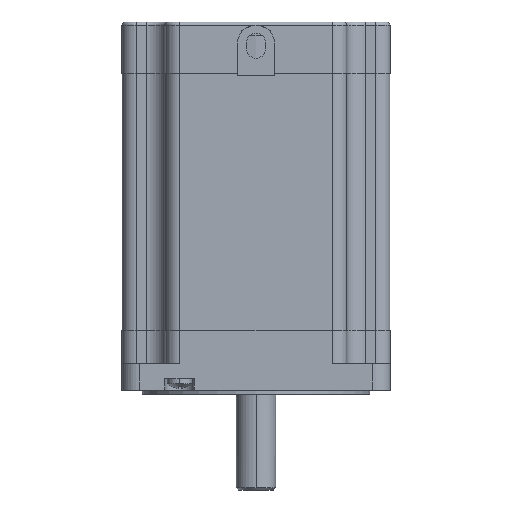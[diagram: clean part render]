
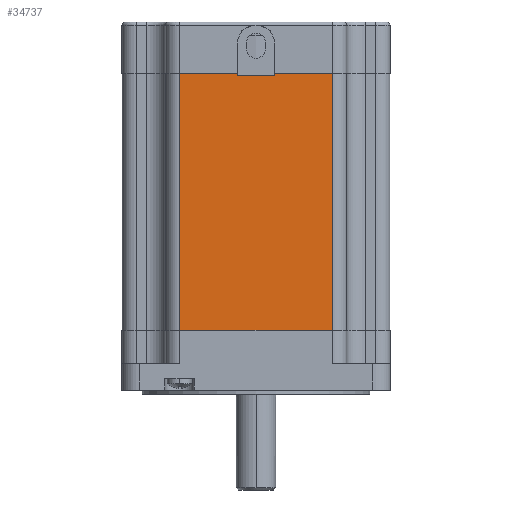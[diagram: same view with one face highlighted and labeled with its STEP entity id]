
A CAD part, left-side view. The second image highlights one B-rep face of the part: STEP entity #34737.
In plain terms, the highlighted planar face has unit normal (-1, 0, 0).
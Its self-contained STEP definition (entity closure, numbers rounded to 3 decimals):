
#650 = EDGE_CURVE ( 'NONE', #36270, #36417, #7085, .T. ) ;
#1016 = FACE_OUTER_BOUND ( 'NONE', #35691, .T. ) ;
#2045 = CARTESIAN_POINT ( 'NONE',  ( -42.87, -24.5, 82.4 ) ) ;
#3076 = VECTOR ( 'NONE', #27436, 1000. ) ;
#3633 = ORIENTED_EDGE ( 'NONE', *, *, #45431, .T. ) ;
#5054 = DIRECTION ( 'NONE',  ( 0., 0., -1. ) ) ;
#7085 = LINE ( 'NONE', #2045, #25351 ) ;
#7221 = ORIENTED_EDGE ( 'NONE', *, *, #48941, .T. ) ;
#10051 = DIRECTION ( 'NONE',  ( 1., 0., 0. ) ) ;
#11626 = EDGE_CURVE ( 'NONE', #32142, #36270, #36728, .T. ) ;
#14390 = CARTESIAN_POINT ( 'NONE',  ( -42.87, -24.5, 0. ) ) ;
#15114 = CARTESIAN_POINT ( 'NONE',  ( -42.87, -24.5, 82.4 ) ) ;
#16013 = VECTOR ( 'NONE', #26712, 1000. ) ;
#18617 = VERTEX_POINT ( 'NONE', #25234 ) ;
#20162 = PLANE ( 'NONE',  #43794 ) ;
#20354 = CARTESIAN_POINT ( 'NONE',  ( -42.87, -24.5, 82.4 ) ) ;
#25234 = CARTESIAN_POINT ( 'NONE',  ( -42.87, 24.5, 0. ) ) ;
#25351 = VECTOR ( 'NONE', #46176, 1000. ) ;
#26712 = DIRECTION ( 'NONE',  ( 0., -1., 0. ) ) ;
#27101 = VECTOR ( 'NONE', #32460, 1000. ) ;
#27436 = DIRECTION ( 'NONE',  ( 0., -1., 0. ) ) ;
#31761 = CARTESIAN_POINT ( 'NONE',  ( -42.87, -24.5, 82.4 ) ) ;
#32142 = VERTEX_POINT ( 'NONE', #43575 ) ;
#32430 = CARTESIAN_POINT ( 'NONE',  ( -42.87, -24.5, 0. ) ) ;
#32460 = DIRECTION ( 'NONE',  ( 0., 0., -1. ) ) ;
#34737 = ADVANCED_FACE ( 'NONE', ( #1016 ), #20162, .F. ) ;
#35691 = EDGE_LOOP ( 'NONE', ( #3633, #48964, #46989, #7221 ) ) ;
#36270 = VERTEX_POINT ( 'NONE', #20354 ) ;
#36417 = VERTEX_POINT ( 'NONE', #14390 ) ;
#36728 = LINE ( 'NONE', #31761, #16013 ) ;
#37456 = CARTESIAN_POINT ( 'NONE',  ( -42.87, 24.5, 82.4 ) ) ;
#42517 = LINE ( 'NONE', #32430, #3076 ) ;
#42547 = LINE ( 'NONE', #37456, #27101 ) ;
#43575 = CARTESIAN_POINT ( 'NONE',  ( -42.87, 24.5, 82.4 ) ) ;
#43794 = AXIS2_PLACEMENT_3D ( 'NONE', #15114, #10051, #5054 ) ;
#45431 = EDGE_CURVE ( 'NONE', #18617, #36417, #42517, .T. ) ;
#46176 = DIRECTION ( 'NONE',  ( 0., 0., -1. ) ) ;
#46989 = ORIENTED_EDGE ( 'NONE', *, *, #11626, .F. ) ;
#48941 = EDGE_CURVE ( 'NONE', #32142, #18617, #42547, .T. ) ;
#48964 = ORIENTED_EDGE ( 'NONE', *, *, #650, .F. ) ;
